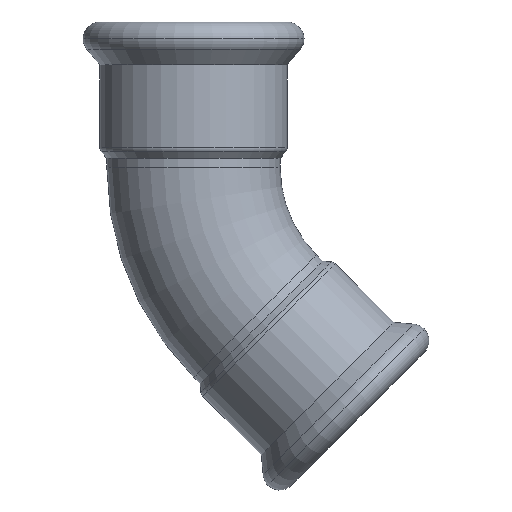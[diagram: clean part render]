
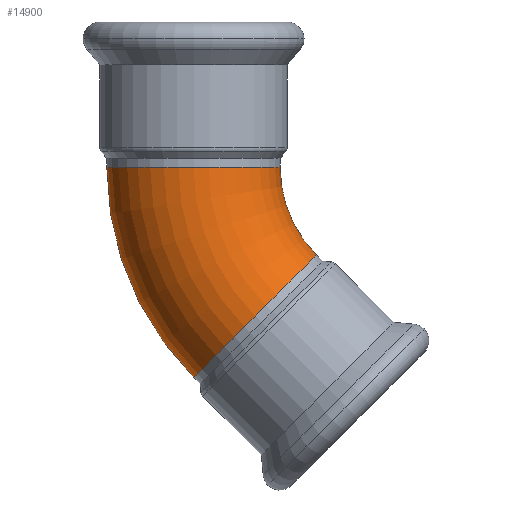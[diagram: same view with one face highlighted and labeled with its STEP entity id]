
A CAD part, top view. The second image highlights one B-rep face of the part: STEP entity #14900.
In plain terms, the highlighted toroidal (fillet/blend) face has major radius 51 mm and minor radius 21 mm.
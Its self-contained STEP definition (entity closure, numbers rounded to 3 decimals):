
#13840=CARTESIAN_POINT('',(-50.154,194.956,0.));
#13850=DIRECTION('',(0.,-1.,0.));
#13860=DIRECTION('',(-1.,0.,0.));
#13870=AXIS2_PLACEMENT_3D('',#13840,#13850,#13860);
#13880=CIRCLE('',#13870,21.);
#13890=CARTESIAN_POINT('',(-50.154,194.956,21.));
#13900=VERTEX_POINT('',#13890);
#13910=CARTESIAN_POINT('',(-71.154,194.956,0.));
#13920=VERTEX_POINT('',#13910);
#13930=EDGE_CURVE('',#13900,#13920,#13880,.T.);
#14070=CARTESIAN_POINT('',(-29.154,194.956,
0.));
#14080=VERTEX_POINT('',#14070);
#14110=EDGE_CURVE('',#14080,#13900,#13880,.T.);
#14560=CARTESIAN_POINT('',(0.846,194.956,0.));
#14570=DIRECTION('',(0.,0.,1.));
#14580=DIRECTION('',(-1.,0.,0.));
#14590=AXIS2_PLACEMENT_3D('',#14560,#14570,#14580);
#14600=TOROIDAL_SURFACE('',#14590,51.,21.);
#14610=CARTESIAN_POINT('',(0.846,194.956,
0.));
#14620=DIRECTION('',(0.,0.,1.));
#14630=DIRECTION('',(-1.,0.,0.));
#14640=AXIS2_PLACEMENT_3D('',#14610,#14620,#14630);
#14650=CIRCLE('',#14640,72.);
#14660=CARTESIAN_POINT('',(-50.065,144.044,
0.));
#14670=VERTEX_POINT('',#14660);
#14680=EDGE_CURVE('',#13920,#14670,#14650,.T.);
#14690=ORIENTED_EDGE('',*,*,#14680,.T.);
#14700=ORIENTED_EDGE('',*,*,#13930,.T.);
#14710=ORIENTED_EDGE('',*,*,#14110,.T.);
#14720=CARTESIAN_POINT('',(0.846,194.956,
0.));
#14730=DIRECTION('',(0.,0.,1.));
#14740=DIRECTION('',(-1.,0.,0.));
#14750=AXIS2_PLACEMENT_3D('',#14720,#14730,#14740);
#14760=CIRCLE('',#14750,30.);
#14770=CARTESIAN_POINT('',(-20.367,173.742,
0.));
#14780=VERTEX_POINT('',#14770);
#14790=EDGE_CURVE('',#14080,#14780,#14760,.T.);
#14800=ORIENTED_EDGE('',*,*,#14790,.F.);
#14810=CARTESIAN_POINT('',(-35.216,158.893,0.));
#14820=DIRECTION('',(0.707,-0.707,0.));
#14830=DIRECTION('',(-0.707,-0.707,0.));
#14840=AXIS2_PLACEMENT_3D('',#14810,#14820,#14830);
#14850=CIRCLE('',#14840,21.);
#14860=EDGE_CURVE('',#14780,#14670,#14850,.T.);
#14870=ORIENTED_EDGE('',*,*,#14860,.F.);
#14880=EDGE_LOOP('',(#14870,#14800,#14710,#14700,#14690));
#14890=FACE_OUTER_BOUND('',#14880,.T.);
#14900=ADVANCED_FACE('',(#14890),#14600,.T.);
